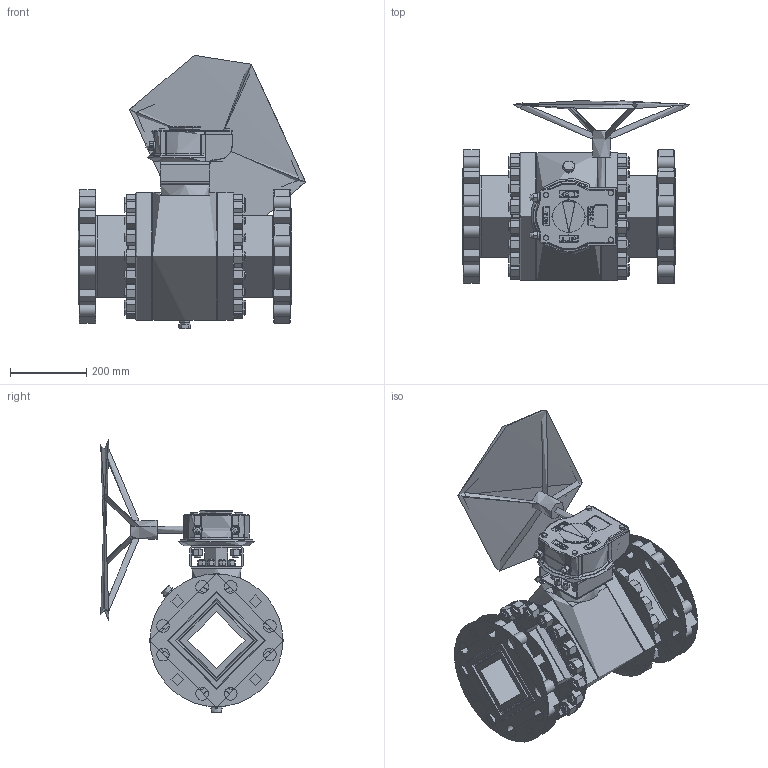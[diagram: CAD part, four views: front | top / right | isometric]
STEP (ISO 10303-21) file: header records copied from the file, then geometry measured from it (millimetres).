
FILE_DESCRIPTION(('STEP AP203'), '1');
FILE_NAME('ZARDP 150.080.27.P.stp', '2013-12-06T13:38:00', ('007'), ('007'), 'ASCON STEP Converter 1.3', 'Kompas 3D', '');
FILE_SCHEMA(('CONFIG_CONTROL_DESIGN','SUPPORT_RESOURCE_SCHEMA'));
Length unit declared in the file: millimetre
Products named in the file (1): 28
Bounding box: 596.56 x 478 x 716.28 mm (x, y, z)
Topology: 21 solids, 22 shells, 1908 faces, 4857 edges, 3096 vertices
Faces by surface type: plane 987, cylinder 392, cone 252, torus 171, bspline 56, sphere 34, extrusion 16
Full cylindrical faces by diameter (mm): 4.134 x2, 4.2 x2, 6 x1, 6.647 x4, 8 x4, 9 x4, 10.106 x8, 12 x10, 16 x5, 17.294 x8, 20 x2, 22 x2, 23.75 x2, 24 x39, 26 x2, 27 x2, 32 x2, 33 x24, 60 x1, 72.15 x2, 74 x2, 75 x4, 79 x1, 86 x1, 88 x1, 92.5 x1, 127 x1, 150 x1, 214 x2, 335 x3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
Entity records: 93355 total; most frequent: CARTESIAN_POINT 48816, ORIENTED_EDGE 9574, DIRECTION 8544, EDGE_CURVE 4790, VERTEX_POINT 3090, AXIS2_PLACEMENT_3D 2989, VECTOR 2566, LINE 2550
